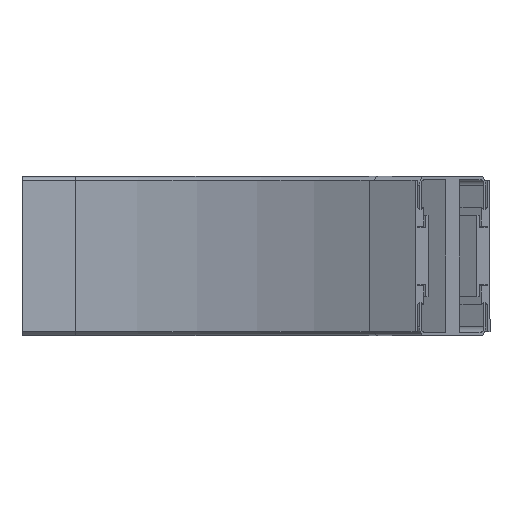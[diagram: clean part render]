
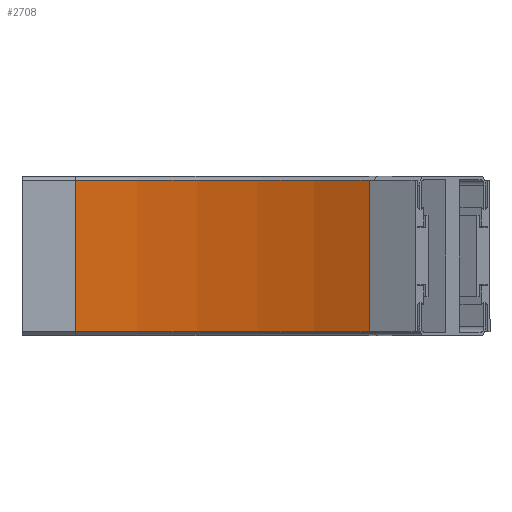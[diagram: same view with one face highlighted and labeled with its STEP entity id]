
A CAD part, front view. The second image highlights one B-rep face of the part: STEP entity #2708.
In plain terms, the highlighted cylindrical face has radius 443.5 mm (diameter 887 mm), a partial arc.
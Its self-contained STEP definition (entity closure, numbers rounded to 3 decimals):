
#43 = LINE ( 'NONE', #280, #3065 ) ;
#77 = EDGE_CURVE ( 'NONE', #3880, #5158, #1032, .T. ) ;
#166 = CARTESIAN_POINT ( 'NONE',  ( 261.75, -115.918, -57.15 ) ) ;
#280 = CARTESIAN_POINT ( 'NONE',  ( 261.75, -115.918, -57.15 ) ) ;
#298 = DIRECTION ( 'NONE',  ( 0., 0., 1. ) ) ;
#336 = DIRECTION ( 'NONE',  ( 0., 0., 1. ) ) ;
#354 = CYLINDRICAL_SURFACE ( 'NONE', #2934, 443.5 ) ;
#529 = CARTESIAN_POINT ( 'NONE',  ( 40., -56.5, -57.15 ) ) ;
#570 = DIRECTION ( 'NONE',  ( 1., 0., 0. ) ) ;
#1032 = CIRCLE ( 'NONE', #4041, 443.5 ) ;
#1062 = VECTOR ( 'NONE', #4825, 1000. ) ;
#1191 = EDGE_CURVE ( 'NONE', #3376, #3399, #2280, .T. ) ;
#1470 = DIRECTION ( 'NONE',  ( 1., 0., 0. ) ) ;
#1638 = DIRECTION ( 'NONE',  ( 1., 0., 0. ) ) ;
#1945 = ORIENTED_EDGE ( 'NONE', *, *, #77, .T. ) ;
#2178 = EDGE_CURVE ( 'NONE', #5158, #3399, #2199, .T. ) ;
#2199 = LINE ( 'NONE', #3486, #1062 ) ;
#2280 = CIRCLE ( 'NONE', #4037, 443.5 ) ;
#2534 = FACE_OUTER_BOUND ( 'NONE', #3260, .T. ) ;
#2708 = ADVANCED_FACE ( 'NONE', ( #2534 ), #354, .F. ) ;
#2934 = AXIS2_PLACEMENT_3D ( 'NONE', #4406, #3211, #570 ) ;
#3065 = VECTOR ( 'NONE', #298, 1000. ) ;
#3211 = DIRECTION ( 'NONE',  ( 0., 0., 1. ) ) ;
#3260 = EDGE_LOOP ( 'NONE', ( #4886, #4963, #3921, #1945 ) ) ;
#3376 = VERTEX_POINT ( 'NONE', #166 ) ;
#3399 = VERTEX_POINT ( 'NONE', #529 ) ;
#3486 = CARTESIAN_POINT ( 'NONE',  ( 40., -56.5, 0. ) ) ;
#3632 = CARTESIAN_POINT ( 'NONE',  ( 40., -500., -57.15 ) ) ;
#3880 = VERTEX_POINT ( 'NONE', #4481 ) ;
#3921 = ORIENTED_EDGE ( 'NONE', *, *, #5055, .T. ) ;
#4037 = AXIS2_PLACEMENT_3D ( 'NONE', #3632, #5361, #1470 ) ;
#4041 = AXIS2_PLACEMENT_3D ( 'NONE', #4237, #336, #1638 ) ;
#4237 = CARTESIAN_POINT ( 'NONE',  ( 40., -500., 57.15 ) ) ;
#4406 = CARTESIAN_POINT ( 'NONE',  ( 40., -500., 0. ) ) ;
#4481 = CARTESIAN_POINT ( 'NONE',  ( 261.75, -115.918, 57.15 ) ) ;
#4550 = CARTESIAN_POINT ( 'NONE',  ( 40., -56.5, 57.15 ) ) ;
#4825 = DIRECTION ( 'NONE',  ( 0., 0., -1. ) ) ;
#4886 = ORIENTED_EDGE ( 'NONE', *, *, #2178, .T. ) ;
#4963 = ORIENTED_EDGE ( 'NONE', *, *, #1191, .F. ) ;
#5055 = EDGE_CURVE ( 'NONE', #3376, #3880, #43, .T. ) ;
#5158 = VERTEX_POINT ( 'NONE', #4550 ) ;
#5361 = DIRECTION ( 'NONE',  ( 0., 0., 1. ) ) ;
